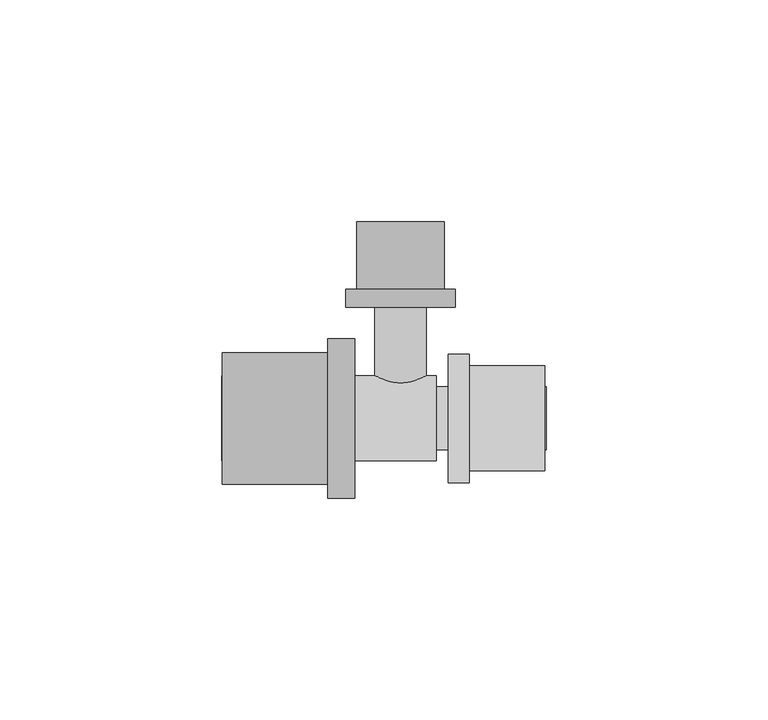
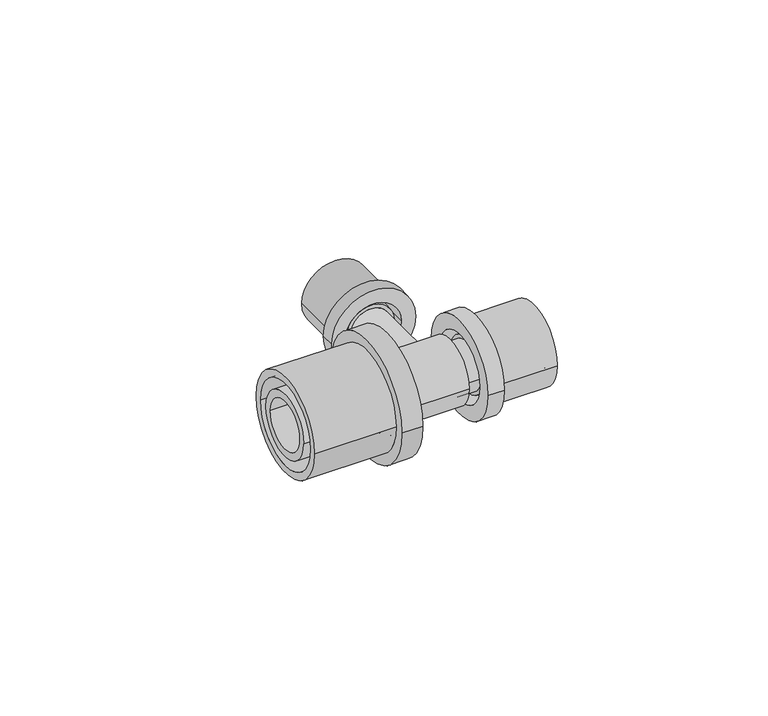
"""IFC4 building model written with IfcOpenShell, lengths in millimetres: pipe fitting geometry, FASTLOC_T-piece_EX+ : FSL T-Piece EX+ AT."""

import ifcopenshell
import ifcopenshell.guid

model = None  # the IFC model being written
_history = None  # IfcOwnerHistory: only IFC2X3 demands one
_inside = {}  # id of a spatial element -> (the spatial element, [elements in it])
_under = {}  # id of a project, library or spatial element -> (it, [spatial elements below it])
_declared = {}  # id of a project -> (the project, [libraries it declares])
_typed = {}  # id of a type object -> (the type object, [elements of that type])
_made_of = {}  # id of a material, layer set ... -> (it, [elements and type objects made of it])


def new_model(schema):
    """Start an empty IFC model of exactly this schema.

    Asked for "IFC4X3", IfcOpenShell would pick the latest addendum, in which some entities
    have other attributes; the version numbers below select the first issue.
    IFC2X3 requires an IfcOwnerHistory on every rooted entity: one is made here for all.
    """
    global model, _history
    if schema == "IFC4X3":
        model = ifcopenshell.file(schema_version=(4, 3, 0, 0))
    else:
        model = ifcopenshell.file(schema=schema)
    _inside.clear()
    _under.clear()
    _declared.clear()
    _typed.clear()
    _made_of.clear()
    _history = None
    if model.schema == "IFC2X3":
        org = make("IfcOrganization", Name="unknown")
        user = make(
            "IfcPersonAndOrganization",
            ThePerson=make("IfcPerson", FamilyName="unknown"),
            TheOrganization=org,
        )
        app = make(
            "IfcApplication",
            ApplicationDeveloper=org,
            Version="unknown",
            ApplicationFullName="unknown",
            ApplicationIdentifier="unknown",
        )
        _history = make(
            "IfcOwnerHistory",
            OwningUser=user,
            OwningApplication=app,
            ChangeAction="ADDED",
            CreationDate=0,
        )
    return model


def make(cls, **values):
    """One entity of the class cls with the attributes given. An attribute that is None is left unset."""
    return model.create_entity(
        cls, **{name: value for name, value in values.items() if value is not None}
    )


def rooted(cls, **values):
    """An entity with a GlobalId (a new one), such as an element, a storey or a relation."""
    return make(cls, GlobalId=ifcopenshell.guid.new(), OwnerHistory=_history, **values)


def si_unit(unit_type, name, prefix=None):
    """IfcSIUnit, for example si_unit("LENGTHUNIT", "METRE", prefix="MILLI")."""
    return make("IfcSIUnit", UnitType=unit_type, Prefix=prefix, Name=name)


def assignment(units):
    """IfcUnitAssignment: the units of a project."""
    return None if units is None else make("IfcUnitAssignment", Units=units)


def point(xyz):
    """IfcCartesianPoint."""
    return None if xyz is None else make("IfcCartesianPoint", Coordinates=xyz)


def direction(xyz):
    """IfcDirection."""
    return None if xyz is None else make("IfcDirection", DirectionRatios=xyz)


def frame(location, z_axis=None, x_axis=None):
    """IfcAxis2Placement3D, a coordinate frame: its origin and axes. An axis left out is left unset."""
    return make(
        "IfcAxis2Placement3D",
        Location=point(location),
        Axis=direction(z_axis),
        RefDirection=direction(x_axis),
    )


def origin():
    """The frame at (0, 0, 0) with its axes left unset."""
    return frame((0.0, 0.0, 0.0))


def place(relative_to, where):
    """IfcLocalPlacement: puts the frame where relative to a parent placement (None: the world)."""
    return make(
        "IfcLocalPlacement", PlacementRelTo=relative_to, RelativePlacement=where
    )


def context(
    kind, dimensions, precision=None, world=None, true_north=None, identifier=None
):
    """IfcGeometricRepresentationContext, for example the 3D "Model" context."""
    return make(
        "IfcGeometricRepresentationContext",
        ContextIdentifier=identifier,
        ContextType=kind,
        CoordinateSpaceDimension=dimensions,
        Precision=precision,
        WorldCoordinateSystem=world,
        TrueNorth=true_north,
    )


def project(units=None, contexts=None):
    """IfcProject with its units and contexts."""
    return rooted(
        "IfcProject",
        Name="project",
        RepresentationContexts=contexts,
        UnitsInContext=assignment(units),
    )


def spatial(cls, under=None, at=None, **own):
    """A site, building, storey or space (cls), placed at a placement, below another one or the project."""
    s = rooted(cls, ObjectPlacement=at, **own)
    if under is not None:
        _under.setdefault(under.id(), (under, []))[1].append(s)
    return s


def polyline(points):
    """IfcPolyline through the points."""
    return make("IfcPolyline", Points=[point(p) for p in points])


def circle_curve(where, radius):
    """IfcCircle in the frame where."""
    return make("IfcCircle", Position=where, Radius=radius)


def shape(context_of_items, identifier, shape_type, items):
    """IfcShapeRepresentation: the items that make up one representation, for example the "Body"."""
    return make(
        "IfcShapeRepresentation",
        ContextOfItems=context_of_items,
        RepresentationIdentifier=identifier,
        RepresentationType=shape_type,
        Items=items,
    )


def source(mapping_origin, context_of_items, identifier, shape_type, items):
    """IfcRepresentationMap: a shape defined once, which mapped items show again and again."""
    return make(
        "IfcRepresentationMap",
        MappingOrigin=mapping_origin,
        MappedRepresentation=shape(context_of_items, identifier, shape_type, items),
    )


def transform(
    local_origin,
    x_axis=None,
    y_axis=None,
    z_axis=None,
    scale=None,
    scale2=None,
    scale3=None,
    uniform=True,
):
    """IfcCartesianTransformationOperator3D, or its non-uniform kind. x_axis, y_axis, z_axis: its Axis1, 2, 3."""
    if uniform:
        return make(
            "IfcCartesianTransformationOperator3D",
            Axis1=direction(x_axis),
            Axis2=direction(y_axis),
            LocalOrigin=point(local_origin),
            Scale=scale,
            Axis3=direction(z_axis),
        )
    return make(
        "IfcCartesianTransformationOperator3DnonUniform",
        Axis1=direction(x_axis),
        Axis2=direction(y_axis),
        LocalOrigin=point(local_origin),
        Scale=scale,
        Axis3=direction(z_axis),
        Scale2=scale2,
        Scale3=scale3,
    )


def mapped(mapping_source, mapping_target):
    """IfcMappedItem: shows the shape of a source again, moved by a transform."""
    return make(
        "IfcMappedItem", MappingSource=mapping_source, MappingTarget=mapping_target
    )


def made_of(thing, what):
    """Note that an element or type object is made of a material, layer set ...; save() writes the relation."""
    if what is not None:
        _made_of.setdefault(what.id(), (what, []))[1].append(thing)
    return thing


def element(
    cls,
    number,
    at=None,
    inside=None,
    cuts=None,
    type_object=None,
    material=None,
    context=None,
    identifier="Body",
    shape_type=None,
    held_by="IfcProductDefinitionShape",
    body=None,
    shapes=None,
    **own,
):
    """One element of the class cls, such as IfcWall. Its Tag is "e" and its number.

    at: its placement. inside: the storey or other place that contains it. cuts: it is an
    opening in that element (IfcRelVoidsElement). A single representation is given by context,
    identifier, shape_type and body (its items); several are given by shapes. held_by: the class
    of the entity that holds the representations. save() writes the other relations.
    """
    e = rooted(cls, Tag="e%d" % number, ObjectPlacement=at, **own)
    if body is not None:
        shapes = [shape(context, identifier, shape_type, body)]
    if shapes is not None:
        e.Representation = make(held_by, Representations=shapes)
    if inside is not None:
        _inside.setdefault(inside.id(), (inside, []))[1].append(e)
    if cuts is not None:
        rooted(
            "IfcRelVoidsElement", RelatingBuildingElement=cuts, RelatedOpeningElement=e
        )
    if type_object is not None:
        _typed.setdefault(type_object.id(), (type_object, []))[1].append(e)
    return made_of(e, material)


def aggregate(whole, parts):
    """IfcRelAggregates: a whole, such as a stair, and the parts it consists of."""
    return rooted("IfcRelAggregates", RelatingObject=whole, RelatedObjects=parts)


def save(model, path):
    """Write the relations noted so far, then the file.

    IfcRelAggregates (storeys below a building ...), IfcRelContainedInSpatialStructure (elements
    in a storey), IfcRelDefinesByType, IfcRelAssociatesMaterial and IfcRelDeclares: one each for
    every whole, place, type object, material and project.
    """
    for whole, parts in _under.values():
        aggregate(whole, parts)
    for where, things in _inside.values():
        rooted(
            "IfcRelContainedInSpatialStructure",
            RelatedElements=things,
            RelatingStructure=where,
        )
    for kind, things in _typed.values():
        rooted("IfcRelDefinesByType", RelatedObjects=things, RelatingType=kind)
    for what, things in _made_of.values():
        rooted("IfcRelAssociatesMaterial", RelatedObjects=things, RelatingMaterial=what)
    for by, libraries in _declared.values():
        rooted("IfcRelDeclares", RelatingContext=by, RelatedDefinitions=libraries)
    model.write(path)


def plane_surface(at):
    """IfcPlane: the flat surface through the origin of the frame at, square to its z axis."""
    return make("IfcPlane", Position=at)


def cylinder_surface(at, radius):
    """IfcCylindricalSurface: all points at the distance radius from the z axis of the frame at."""
    return make("IfcCylindricalSurface", Position=at, Radius=radius)


def revolved_surface(curve, axis_point, axis_direction):
    """IfcSurfaceOfRevolution: the curve turned about the line through axis_point along axis_direction."""
    return make(
        "IfcSurfaceOfRevolution",
        SweptCurve=make("IfcArbitraryOpenProfileDef", ProfileType="CURVE", Curve=curve),
        AxisPosition=make("IfcAxis1Placement", Location=point(axis_point), Axis=direction(axis_direction)),
    )


def advanced_brep(points, edges, surfaces, faces):
    """IfcAdvancedBrep: a solid bounded by faces that lie on surfaces and meet in shared edges.

    An edge is (start, end): straight between two places in points (the first is 0);
    or (start, end, curve); or (start, end, curve, False) where it runs against its curve.
    A face is (place in surfaces, loops), or (place, loops, False) where it looks against
    its surface's normal. A loop lists edges by number (the first is 1), with a minus sign
    where the edge is run from its end to its start. The first loop is the outer one.
    """
    corners = [point(p) for p in points]
    vertices = [make("IfcVertexPoint", VertexGeometry=c) for c in corners]
    made = []
    for start, end, *more in edges:
        made.append(
            make(
                "IfcEdgeCurve",
                EdgeStart=vertices[start],
                EdgeEnd=vertices[end],
                EdgeGeometry=more[0] if more else make("IfcPolyline", Points=[corners[start], corners[end]]),
                SameSense=more[1] if len(more) > 1 else True,
            )
        )
    hull = []
    for where, loops, *sense in faces:
        bounds = []
        for j, loop in enumerate(loops):
            ring = [make("IfcOrientedEdge", EdgeElement=made[abs(k) - 1], Orientation=k > 0) for k in loop]
            bounds.append(
                make(
                    "IfcFaceOuterBound" if j == 0 else "IfcFaceBound",
                    Bound=make("IfcEdgeLoop", EdgeList=ring),
                    Orientation=True,
                )
            )
        hull.append(make("IfcAdvancedFace", Bounds=bounds, FaceSurface=surfaces[where], SameSense=sense[0] if sense else True))
    return make("IfcAdvancedBrep", Outer=make("IfcClosedShell", CfsFaces=hull))


def pipe_fitting_271ef6d1(model_context):
    return source(origin(), model_context, "Body", "AdvancedBrep", [
        advanced_brep(
        [(15.5, 14.5, 0.0), (15.5, -14.5, 0.0), (10.8, -14.5, 0.0), (10.8, 14.5, 0.0), (32.5, 11.85, 0.0), (32.5, -11.85, 0.0), (15.5, -11.85, 0.0), (15.5, 11.85, 0.0), (10.8, 10.15, 0.0), (10.8, -10.15, 0.0), (32.5, -10.15, 0.0), (32.5, 10.15, 0.0)],
        [
            (0, 1, circle_curve(frame((15.5, 0.0, 0.0), z_axis=(-1.0, 0.0, 0.0), x_axis=(0.0, -1.0, 0.0)), 14.5)),
            (1, 2),
            (2, 3, circle_curve(frame((10.8, 0.0, 0.0), z_axis=(1.0, 0.0, 0.0), x_axis=(0.0, -1.0, 0.0)), 14.5)),
            (3, 0),
            (4, 5, circle_curve(frame((32.5, 0.0, 0.0), z_axis=(-1.0, 0.0, 0.0), x_axis=(0.0, -1.0, 0.0)), 11.85)),
            (5, 6),
            (6, 7, circle_curve(frame((15.5, 0.0, 0.0), z_axis=(1.0, 0.0, 0.0), x_axis=(0.0, -1.0, 0.0)), 11.85)),
            (7, 4),
            (8, 9, circle_curve(frame((10.8, 0.0, 0.0), z_axis=(-1.0, 0.0, 0.0), x_axis=(0.0, -1.0, 0.0)), 10.15)),
            (9, 10),
            (10, 11, circle_curve(frame((32.5, 0.0, 0.0), z_axis=(1.0, 0.0, 0.0), x_axis=(0.0, -1.0, 0.0)), 10.15)),
            (11, 8),
            (1, 0, circle_curve(frame((15.5, 0.0, 0.0), z_axis=(-1.0, 0.0, 0.0), x_axis=(0.0, 1.0, 0.0)), 14.5)),
            (3, 2, circle_curve(frame((10.8, 0.0, 0.0), z_axis=(1.0, 0.0, 0.0), x_axis=(0.0, 1.0, 0.0)), 14.5)),
            (6, 7, circle_curve(frame((15.5, 0.0, 0.0), z_axis=(-1.0, 0.0, 0.0), x_axis=(0.0, 1.0, 0.0)), 11.85)),
            (5, 4, circle_curve(frame((32.5, 0.0, 0.0), z_axis=(-1.0, 0.0, 0.0), x_axis=(0.0, 1.0, 0.0)), 11.85)),
            (10, 11, circle_curve(frame((32.5, 0.0, 0.0), z_axis=(-1.0, 0.0, 0.0), x_axis=(0.0, 1.0, 0.0)), 10.15)),
            (9, 8, circle_curve(frame((10.8, 0.0, 0.0), z_axis=(-1.0, 0.0, 0.0), x_axis=(0.0, 1.0, 0.0)), 10.15)),
        ],
        [
            cylinder_surface(frame((10.8, 0.0, 0.0), z_axis=(1.0, 0.0, 0.0), x_axis=(0.0, -1.0, 0.0)), 14.5),
            cylinder_surface(frame((10.8, 0.0, 0.0), z_axis=(1.0, 0.0, 0.0), x_axis=(0.0, -1.0, 0.0)), 11.85),
            revolved_surface(polyline([(32.5, -10.15, 0.0), (10.8, -10.15, 0.0)]), (10.8, 0.0, 0.0), (1.0, 0.0, 0.0)),
            cylinder_surface(frame((10.8, 0.0, 0.0), z_axis=(1.0, 0.0, 0.0), x_axis=(0.0, 1.0, 0.0)), 14.5),
            plane_surface(frame((15.5, 0.0, 0.0), z_axis=(1.0, 0.0, 0.0), x_axis=(0.0, 1.0, 0.0))),
            cylinder_surface(frame((10.8, 0.0, 0.0), z_axis=(1.0, 0.0, 0.0), x_axis=(0.0, 1.0, 0.0)), 11.85),
            plane_surface(frame((32.5, 0.0, 0.0), z_axis=(1.0, 0.0, 0.0), x_axis=(0.0, 1.0, 0.0))),
            revolved_surface(polyline([(32.5, 10.15, 0.0), (10.8, 10.15, 0.0)]), (10.8, 0.0, 0.0), (1.0, 0.0, 0.0)),
            plane_surface(frame((10.8, 0.0, 0.0), z_axis=(-1.0, 0.0, 0.0), x_axis=(0.0, 1.0, 0.0))),
        ],
        [
            (0, [[1, 2, 3, 4]]),
            (1, [[5, 6, 7, 8]]),
            (2, [[9, 10, 11, 12]]),
            (3, [[13, -4, 14, -2]]),
            (4, [[-13, -1], [15, -7]]),
            (5, [[16, -8, -15, -6]]),
            (6, [[-16, -5], [17, -11]]),
            (7, [[18, -12, -17, -10]]),
            (8, [[-14, -3], [-18, -9]]),
        ],
    ),
        advanced_brep(
        [(-16.4, -18.0, 0.0), (-16.4, 18.0, 0.0), (-10.4, 18.0, 0.0), (-10.4, -18.0, 0.0), (-40.2, -14.85, 0.0), (-40.2, 14.85, 0.0), (-16.4, 14.85, 0.0), (-16.4, -14.85, 0.0), (-10.4, -12.65, 0.0), (-10.4, 12.65, 0.0), (-40.2, 12.65, 0.0), (-40.2, -12.65, 0.0)],
        [
            (0, 1, circle_curve(frame((-16.4, 0.0, 0.0), z_axis=(1.0, 0.0, 0.0), x_axis=(0.0, 1.0, 0.0)), 18.0)),
            (1, 2),
            (2, 3, circle_curve(frame((-10.4, 0.0, 0.0), z_axis=(-1.0, 0.0, 0.0), x_axis=(0.0, 1.0, 0.0)), 18.0)),
            (3, 0),
            (4, 5, circle_curve(frame((-40.2, 0.0, 0.0), z_axis=(1.0, 0.0, 0.0), x_axis=(0.0, 1.0, 0.0)), 14.85)),
            (5, 6),
            (6, 7, circle_curve(frame((-16.4, 0.0, 0.0), z_axis=(-1.0, 0.0, 0.0), x_axis=(0.0, 1.0, 0.0)), 14.85)),
            (7, 4),
            (8, 9, circle_curve(frame((-10.4, 0.0, 0.0), z_axis=(1.0, 0.0, 0.0), x_axis=(0.0, 1.0, 0.0)), 12.65)),
            (9, 10),
            (10, 11, circle_curve(frame((-40.2, 0.0, 0.0), z_axis=(-1.0, 0.0, 0.0), x_axis=(0.0, 1.0, 0.0)), 12.65)),
            (11, 8),
            (1, 0, circle_curve(frame((-16.4, 0.0, 0.0), z_axis=(1.0, 0.0, 0.0), x_axis=(0.0, -1.0, 0.0)), 18.0)),
            (3, 2, circle_curve(frame((-10.4, 0.0, 0.0), z_axis=(-1.0, 0.0, 0.0), x_axis=(0.0, -1.0, 0.0)), 18.0)),
            (6, 7, circle_curve(frame((-16.4, 0.0, 0.0), z_axis=(1.0, 0.0, 0.0), x_axis=(0.0, -1.0, 0.0)), 14.85)),
            (5, 4, circle_curve(frame((-40.2, 0.0, 0.0), z_axis=(1.0, 0.0, 0.0), x_axis=(0.0, -1.0, 0.0)), 14.85)),
            (10, 11, circle_curve(frame((-40.2, 0.0, 0.0), z_axis=(1.0, 0.0, 0.0), x_axis=(0.0, -1.0, 0.0)), 12.65)),
            (9, 8, circle_curve(frame((-10.4, 0.0, 0.0), z_axis=(1.0, 0.0, 0.0), x_axis=(0.0, -1.0, 0.0)), 12.65)),
        ],
        [
            cylinder_surface(frame((-10.4, 0.0, 0.0), z_axis=(-1.0, 0.0, 0.0), x_axis=(0.0, 1.0, 0.0)), 18.0),
            cylinder_surface(frame((-10.4, 0.0, 0.0), z_axis=(-1.0, 0.0, 0.0), x_axis=(0.0, 1.0, 0.0)), 14.85),
            revolved_surface(polyline([(-40.2, 12.65, 0.0), (-10.4, 12.65, 0.0)]), (-10.4, 0.0, 0.0), (-1.0, 0.0, 0.0)),
            cylinder_surface(frame((-10.4, 0.0, 0.0), z_axis=(-1.0, 0.0, 0.0), x_axis=(0.0, -1.0, 0.0)), 18.0),
            plane_surface(frame((-16.4, 0.0, 0.0), z_axis=(-1.0, 0.0, 0.0), x_axis=(0.0, -1.0, 0.0))),
            cylinder_surface(frame((-10.4, 0.0, 0.0), z_axis=(-1.0, 0.0, 0.0), x_axis=(0.0, -1.0, 0.0)), 14.85),
            plane_surface(frame((-40.2, 0.0, 0.0), z_axis=(-1.0, 0.0, 0.0), x_axis=(0.0, -1.0, 0.0))),
            revolved_surface(polyline([(-40.2, -12.65, 0.0), (-10.4, -12.65, 0.0)]), (-10.4, 0.0, 0.0), (-1.0, 0.0, 0.0)),
            plane_surface(frame((-10.4, 0.0, 0.0), z_axis=(1.0, 0.0, 0.0), x_axis=(0.0, -1.0, 0.0))),
        ],
        [
            (0, [[1, 2, 3, 4]]),
            (1, [[5, 6, 7, 8]]),
            (2, [[9, 10, 11, 12]]),
            (3, [[13, -4, 14, -2]]),
            (4, [[-13, -1], [15, -7]]),
            (5, [[16, -8, -15, -6]]),
            (6, [[-16, -5], [17, -11]]),
            (7, [[18, -12, -17, -10]]),
            (8, [[-14, -3], [-18, -9]]),
        ],
    ),
        advanced_brep(
        [(-12.35, 29.1, 0.0), (12.35, 29.1, 0.0), (12.35, 25.1, 0.0), (-12.35, 25.1, 0.0), (-9.85, 44.4, 0.0), (9.85, 44.4, 0.0), (9.85, 29.1, 0.0), (-9.85, 29.1, 0.0), (-8.15, 25.1, 0.0), (8.15, 25.1, 0.0), (8.15, 44.4, 0.0), (-8.15, 44.4, 0.0)],
        [
            (0, 1, circle_curve(frame((0.0, 29.1, 0.0), z_axis=(0.0, -1.0, 0.0), x_axis=(1.0, 0.0, 0.0)), 12.35)),
            (1, 2),
            (2, 3, circle_curve(frame((0.0, 25.1, 0.0), z_axis=(0.0, 1.0, 0.0), x_axis=(1.0, 0.0, 0.0)), 12.35)),
            (3, 0),
            (4, 5, circle_curve(frame((0.0, 44.4, 0.0), z_axis=(0.0, -1.0, 0.0), x_axis=(1.0, 0.0, 0.0)), 9.85)),
            (5, 6),
            (6, 7, circle_curve(frame((0.0, 29.1, 0.0), z_axis=(0.0, 1.0, 0.0), x_axis=(1.0, 0.0, 0.0)), 9.85)),
            (7, 4),
            (8, 9, circle_curve(frame((0.0, 25.1, 0.0), z_axis=(0.0, -1.0, 0.0), x_axis=(1.0, 0.0, 0.0)), 8.15)),
            (9, 10),
            (10, 11, circle_curve(frame((0.0, 44.4, 0.0), z_axis=(0.0, 1.0, 0.0), x_axis=(1.0, 0.0, 0.0)), 8.15)),
            (11, 8),
            (1, 0, circle_curve(frame((0.0, 29.1, 0.0), z_axis=(0.0, -1.0, 0.0), x_axis=(-1.0, 0.0, 0.0)), 12.35)),
            (3, 2, circle_curve(frame((0.0, 25.1, 0.0), z_axis=(0.0, 1.0, 0.0), x_axis=(-1.0, 0.0, 0.0)), 12.35)),
            (6, 7, circle_curve(frame((0.0, 29.1, 0.0), z_axis=(0.0, -1.0, 0.0), x_axis=(-1.0, 0.0, 0.0)), 9.85)),
            (5, 4, circle_curve(frame((0.0, 44.4, 0.0), z_axis=(0.0, -1.0, 0.0), x_axis=(-1.0, 0.0, 0.0)), 9.85)),
            (10, 11, circle_curve(frame((0.0, 44.4, 0.0), z_axis=(0.0, -1.0, 0.0), x_axis=(-1.0, 0.0, 0.0)), 8.15)),
            (9, 8, circle_curve(frame((0.0, 25.1, 0.0), z_axis=(0.0, -1.0, 0.0), x_axis=(-1.0, 0.0, 0.0)), 8.15)),
        ],
        [
            cylinder_surface(frame((0.0, 25.1, 0.0), z_axis=(0.0, 1.0, 0.0), x_axis=(1.0, 0.0, 0.0)), 12.35),
            cylinder_surface(frame((0.0, 25.1, 0.0), z_axis=(0.0, 1.0, 0.0), x_axis=(1.0, 0.0, 0.0)), 9.85),
            revolved_surface(polyline([(8.15, 44.4, 0.0), (8.15, 25.1, 0.0)]), (0.0, 25.1, 0.0), (0.0, 1.0, 0.0)),
            cylinder_surface(frame((0.0, 25.1, 0.0), z_axis=(0.0, 1.0, 0.0), x_axis=(-1.0, 0.0, 0.0)), 12.35),
            plane_surface(frame((0.0, 29.1, 0.0), z_axis=(0.0, 1.0, 0.0), x_axis=(-1.0, 0.0, 0.0))),
            cylinder_surface(frame((0.0, 25.1, 0.0), z_axis=(0.0, 1.0, 0.0), x_axis=(-1.0, 0.0, 0.0)), 9.85),
            plane_surface(frame((0.0, 44.4, 0.0), z_axis=(0.0, 1.0, 0.0), x_axis=(-1.0, 0.0, 0.0))),
            revolved_surface(polyline([(-8.15, 44.4, 0.0), (-8.15, 25.1, 0.0)]), (0.0, 25.1, 0.0), (0.0, 1.0, 0.0)),
            plane_surface(frame((0.0, 25.1, 0.0), z_axis=(0.0, -1.0, 0.0), x_axis=(-1.0, 0.0, 0.0))),
        ],
        [
            (0, [[1, 2, 3, 4]]),
            (1, [[5, 6, 7, 8]]),
            (2, [[9, 10, 11, 12]]),
            (3, [[13, -4, 14, -2]]),
            (4, [[-13, -1], [15, -7]]),
            (5, [[16, -8, -15, -6]]),
            (6, [[-16, -5], [17, -11]]),
            (7, [[18, -12, -17, -10]]),
            (8, [[-14, -3], [-18, -9]]),
        ],
    ),
        advanced_brep(
        [(12.83, 7.1, 0.0), (12.83, -7.1, 0.0), (8.0, -7.1, 0.0), (8.0, 7.1, 0.0), (15.5, 8.15, 0.0), (15.5, -8.15, 0.0), (12.83, -8.15, 0.0), (12.83, 8.15, 0.0), (32.9, 7.1, 0.0), (32.9, -7.1, 0.0), (15.5, -7.1, 0.0), (15.5, 7.1, 0.0), (6.0, 5.1, 0.0), (6.0, -5.1, 0.0), (32.9, -5.1, 0.0), (32.9, 5.1, 0.0), (-40.4, 7.35, 0.0), (-40.4, -7.35, 0.0), (6.0, -7.35, 0.0), (6.0, 7.35, 0.0), (-16.4, 9.6, 0.0), (-16.4, -9.6, 0.0), (-40.4, -9.6, 0.0), (-40.4, 9.6, 0.0), (-13.6, 11.1, 0.0), (-13.6, -11.1, 0.0), (-16.4, -11.1, 0.0), (-16.4, 11.1, 0.0), (8.0, 9.6, 0.0), (8.0, -9.6, 0.0), (-13.6, -9.6, 0.0), (-13.6, 9.6, 0.0)],
        [
            (0, 1, circle_curve(frame((12.83, 0.0, 0.0), z_axis=(-1.0, 0.0, 0.0), x_axis=(0.0, -1.0, 0.0)), 7.1)),
            (1, 2),
            (2, 3, circle_curve(frame((8.0, 0.0, 0.0), z_axis=(1.0, 0.0, 0.0), x_axis=(0.0, -1.0, 0.0)), 7.1)),
            (3, 0),
            (4, 5, circle_curve(frame((15.5, 0.0, 0.0), z_axis=(-1.0, 0.0, 0.0), x_axis=(0.0, -1.0, 0.0)), 8.15)),
            (5, 6),
            (6, 7, circle_curve(frame((12.83, 0.0, 0.0), z_axis=(1.0, 0.0, 0.0), x_axis=(0.0, -1.0, 0.0)), 8.15)),
            (7, 4),
            (8, 9, circle_curve(frame((32.9, 0.0, 0.0), z_axis=(-1.0, 0.0, 0.0), x_axis=(0.0, -1.0, 0.0)), 7.1)),
            (9, 10),
            (10, 11, circle_curve(frame((15.5, 0.0, 0.0), z_axis=(1.0, 0.0, 0.0), x_axis=(0.0, -1.0, 0.0)), 7.1)),
            (11, 8),
            (12, 13, circle_curve(frame((6.0, 0.0, 0.0), z_axis=(-1.0, 0.0, 0.0), x_axis=(0.0, -1.0, 0.0)), 5.1)),
            (13, 14),
            (14, 15, circle_curve(frame((32.9, 0.0, 0.0), z_axis=(1.0, 0.0, 0.0), x_axis=(0.0, -1.0, 0.0)), 5.1)),
            (15, 12),
            (16, 17, circle_curve(frame((-40.4, 0.0, 0.0), z_axis=(-1.0, 0.0, 0.0), x_axis=(0.0, -1.0, 0.0)), 7.35)),
            (17, 18),
            (18, 19, circle_curve(frame((6.0, 0.0, 0.0), z_axis=(1.0, 0.0, 0.0), x_axis=(0.0, -1.0, 0.0)), 7.35)),
            (19, 16),
            (20, 21, circle_curve(frame((-16.4, 0.0, 0.0), z_axis=(-1.0, 0.0, 0.0), x_axis=(0.0, -1.0, 0.0)), 9.6)),
            (21, 22),
            (22, 23, circle_curve(frame((-40.4, 0.0, 0.0), z_axis=(1.0, 0.0, 0.0), x_axis=(0.0, -1.0, 0.0)), 9.6)),
            (23, 20),
            (24, 25, circle_curve(frame((-13.6, 0.0, 0.0), z_axis=(-1.0, 0.0, 0.0), x_axis=(0.0, -1.0, 0.0)), 11.1)),
            (25, 26),
            (26, 27, circle_curve(frame((-16.4, 0.0, 0.0), z_axis=(1.0, 0.0, 0.0), x_axis=(0.0, -1.0, 0.0)), 11.1)),
            (27, 24),
            (28, 29, circle_curve(frame((8.0, 0.0, 0.0), z_axis=(-1.0, 0.0, 0.0), x_axis=(0.0, -1.0, 0.0)), 9.6)),
            (29, 30),
            (30, 31, circle_curve(frame((-13.6, 0.0, 0.0), z_axis=(1.0, 0.0, 0.0), x_axis=(0.0, -1.0, 0.0)), 9.6)),
            (31, 28),
            (28, 29, circle_curve(frame((8.0, 0.0, 0.0), z_axis=(1.0, 0.0, 0.0), x_axis=(0.0, 1.0, 0.0)), 9.6)),
            (2, 3, circle_curve(frame((8.0, 0.0, 0.0), z_axis=(-1.0, 0.0, 0.0), x_axis=(0.0, 1.0, 0.0)), 7.1)),
            (1, 0, circle_curve(frame((12.83, 0.0, 0.0), z_axis=(-1.0, 0.0, 0.0), x_axis=(0.0, 1.0, 0.0)), 7.1)),
            (6, 7, circle_curve(frame((12.83, 0.0, 0.0), z_axis=(-1.0, 0.0, 0.0), x_axis=(0.0, 1.0, 0.0)), 8.15)),
            (5, 4, circle_curve(frame((15.5, 0.0, 0.0), z_axis=(-1.0, 0.0, 0.0), x_axis=(0.0, 1.0, 0.0)), 8.15)),
            (10, 11, circle_curve(frame((15.5, 0.0, 0.0), z_axis=(-1.0, 0.0, 0.0), x_axis=(0.0, 1.0, 0.0)), 7.1)),
            (9, 8, circle_curve(frame((32.9, 0.0, 0.0), z_axis=(-1.0, 0.0, 0.0), x_axis=(0.0, 1.0, 0.0)), 7.1)),
            (14, 15, circle_curve(frame((32.9, 0.0, 0.0), z_axis=(-1.0, 0.0, 0.0), x_axis=(0.0, 1.0, 0.0)), 5.1)),
            (13, 12, circle_curve(frame((6.0, 0.0, 0.0), z_axis=(-1.0, 0.0, 0.0), x_axis=(0.0, 1.0, 0.0)), 5.1)),
            (18, 19, circle_curve(frame((6.0, 0.0, 0.0), z_axis=(-1.0, 0.0, 0.0), x_axis=(0.0, 1.0, 0.0)), 7.35)),
            (17, 16, circle_curve(frame((-40.4, 0.0, 0.0), z_axis=(-1.0, 0.0, 0.0), x_axis=(0.0, 1.0, 0.0)), 7.35)),
            (22, 23, circle_curve(frame((-40.4, 0.0, 0.0), z_axis=(-1.0, 0.0, 0.0), x_axis=(0.0, 1.0, 0.0)), 9.6)),
            (21, 20, circle_curve(frame((-16.4, 0.0, 0.0), z_axis=(-1.0, 0.0, 0.0), x_axis=(0.0, 1.0, 0.0)), 9.6)),
            (26, 27, circle_curve(frame((-16.4, 0.0, 0.0), z_axis=(-1.0, 0.0, 0.0), x_axis=(0.0, 1.0, 0.0)), 11.1)),
            (25, 24, circle_curve(frame((-13.6, 0.0, 0.0), z_axis=(-1.0, 0.0, 0.0), x_axis=(0.0, 1.0, 0.0)), 11.1)),
            (30, 31, circle_curve(frame((-13.6, 0.0, 0.0), z_axis=(-1.0, 0.0, 0.0), x_axis=(0.0, 1.0, 0.0)), 9.6)),
        ],
        [
            cylinder_surface(frame((0.0, 0.0, 0.0), z_axis=(1.0, 0.0, 0.0), x_axis=(0.0, -1.0, 0.0)), 7.1),
            cylinder_surface(frame((0.0, 0.0, 0.0), z_axis=(1.0, 0.0, 0.0), x_axis=(0.0, -1.0, 0.0)), 8.15),
            revolved_surface(polyline([(32.9, -5.1, 0.0), (6.0, -5.1, 0.0)]), (0.0, 0.0, 0.0), (1.0, 0.0, 0.0)),
            revolved_surface(polyline([(6.0, -7.35, 0.0), (-40.4, -7.35, 0.0)]), (0.0, 0.0, 0.0), (1.0, 0.0, 0.0)),
            cylinder_surface(frame((0.0, 0.0, 0.0), z_axis=(1.0, 0.0, 0.0), x_axis=(0.0, -1.0, 0.0)), 9.6),
            cylinder_surface(frame((0.0, 0.0, 0.0), z_axis=(1.0, 0.0, 0.0), x_axis=(0.0, -1.0, 0.0)), 11.1),
            plane_surface(frame((8.0, 0.0, 0.0), z_axis=(1.0, 0.0, 0.0), x_axis=(0.0, 1.0, 0.0))),
            cylinder_surface(frame((0.0, 0.0, 0.0), z_axis=(1.0, 0.0, 0.0), x_axis=(0.0, 1.0, 0.0)), 7.1),
            plane_surface(frame((12.83, 0.0, 0.0), z_axis=(-1.0, 0.0, 0.0), x_axis=(0.0, 1.0, 0.0))),
            cylinder_surface(frame((0.0, 0.0, 0.0), z_axis=(1.0, 0.0, 0.0), x_axis=(0.0, 1.0, 0.0)), 8.15),
            plane_surface(frame((15.5, 0.0, 0.0), z_axis=(1.0, 0.0, 0.0), x_axis=(0.0, 1.0, 0.0))),
            plane_surface(frame((32.9, 0.0, 0.0), z_axis=(1.0, 0.0, 0.0), x_axis=(0.0, 1.0, 0.0))),
            revolved_surface(polyline([(32.9, 5.1, 0.0), (6.0, 5.1, 0.0)]), (0.0, 0.0, 0.0), (1.0, 0.0, 0.0)),
            plane_surface(frame((6.0, 0.0, 0.0), z_axis=(-1.0, 0.0, 0.0), x_axis=(0.0, 1.0, 0.0))),
            revolved_surface(polyline([(6.0, 7.35, 0.0), (-40.4, 7.35, 0.0)]), (0.0, 0.0, 0.0), (1.0, 0.0, 0.0)),
            plane_surface(frame((-40.4, 0.0, 0.0), z_axis=(-1.0, 0.0, 0.0), x_axis=(0.0, 1.0, 0.0))),
            cylinder_surface(frame((0.0, 0.0, 0.0), z_axis=(1.0, 0.0, 0.0), x_axis=(0.0, 1.0, 0.0)), 9.6),
            plane_surface(frame((-16.4, 0.0, 0.0), z_axis=(-1.0, 0.0, 0.0), x_axis=(0.0, 1.0, 0.0))),
            cylinder_surface(frame((0.0, 0.0, 0.0), z_axis=(1.0, 0.0, 0.0), x_axis=(0.0, 1.0, 0.0)), 11.1),
            plane_surface(frame((-13.6, 0.0, 0.0), z_axis=(1.0, 0.0, 0.0), x_axis=(0.0, 1.0, 0.0))),
        ],
        [
            (0, [[1, 2, 3, 4]]),
            (1, [[5, 6, 7, 8]]),
            (0, [[9, 10, 11, 12]]),
            (2, [[13, 14, 15, 16]]),
            (3, [[17, 18, 19, 20]]),
            (4, [[21, 22, 23, 24]]),
            (5, [[25, 26, 27, 28]]),
            (4, [[29, 30, 31, 32]]),
            (6, [[33, -29], [34, -3]]),
            (7, [[35, -4, -34, -2]]),
            (8, [[36, -7], [-35, -1]]),
            (9, [[37, -8, -36, -6]]),
            (10, [[-37, -5], [38, -11]]),
            (7, [[39, -12, -38, -10]]),
            (11, [[-39, -9], [40, -15]]),
            (12, [[41, -16, -40, -14]]),
            (13, [[42, -19], [-41, -13]]),
            (14, [[43, -20, -42, -18]]),
            (15, [[44, -23], [-43, -17]]),
            (16, [[45, -24, -44, -22]]),
            (17, [[46, -27], [-45, -21]]),
            (18, [[47, -28, -46, -26]]),
            (19, [[-47, -25], [48, -31]]),
            (16, [[-33, -32, -48, -30]]),
        ],
    ),
        advanced_brep(
        [(3.95, 44.1, 0.0), (-3.95, 44.1, 0.0), (-3.95, 0.0, 0.0), (3.95, 0.0, 0.0), (5.8, 0.0, 0.0), (-5.8, 0.0, 0.0), (-5.8, 26.39, 0.0), (5.8, 26.39, 0.0), (6.9, 26.39, 0.0), (-6.9, 26.39, 0.0), (-6.9, 29.1, 0.0), (6.9, 29.1, 0.0), (5.8, 29.1, 0.0), (-5.8, 29.1, 0.0), (-5.8, 44.1, 0.0), (5.8, 44.1, 0.0)],
        [
            (0, 1, circle_curve(frame((0.0, 44.1, 0.0), z_axis=(0.0, 1.0, 0.0), x_axis=(-1.0, 0.0, 0.0)), 3.95)),
            (1, 2),
            (2, 3, circle_curve(frame((0.0, 0.0, 0.0), z_axis=(0.0, -1.0, 0.0), x_axis=(-1.0, 0.0, 0.0)), 3.95)),
            (3, 0),
            (4, 5, circle_curve(frame((0.0, 0.0, 0.0), z_axis=(0.0, 1.0, 0.0), x_axis=(-1.0, 0.0, 0.0)), 5.8)),
            (5, 6),
            (6, 7, circle_curve(frame((0.0, 26.39, 0.0), z_axis=(0.0, -1.0, 0.0), x_axis=(-1.0, 0.0, 0.0)), 5.8)),
            (7, 4),
            (8, 9, circle_curve(frame((0.0, 26.39, 0.0), z_axis=(0.0, 1.0, 0.0), x_axis=(-1.0, 0.0, 0.0)), 6.9)),
            (9, 10),
            (10, 11, circle_curve(frame((0.0, 29.1, 0.0), z_axis=(0.0, -1.0, 0.0), x_axis=(-1.0, 0.0, 0.0)), 6.9)),
            (11, 8),
            (12, 13, circle_curve(frame((0.0, 29.1, 0.0), z_axis=(0.0, 1.0, 0.0), x_axis=(-1.0, 0.0, 0.0)), 5.8)),
            (13, 14),
            (14, 15, circle_curve(frame((0.0, 44.1, 0.0), z_axis=(0.0, -1.0, 0.0), x_axis=(-1.0, 0.0, 0.0)), 5.8)),
            (15, 12),
            (1, 0, circle_curve(frame((0.0, 44.1, 0.0), z_axis=(0.0, 1.0, 0.0), x_axis=(1.0, 0.0, 0.0)), 3.95)),
            (3, 2, circle_curve(frame((0.0, 0.0, 0.0), z_axis=(0.0, -1.0, 0.0), x_axis=(1.0, 0.0, 0.0)), 3.95)),
            (4, 5, circle_curve(frame((0.0, 0.0, 0.0), z_axis=(0.0, -1.0, 0.0), x_axis=(1.0, 0.0, 0.0)), 5.8)),
            (7, 6, circle_curve(frame((0.0, 26.39, 0.0), z_axis=(0.0, -1.0, 0.0), x_axis=(1.0, 0.0, 0.0)), 5.8)),
            (8, 9, circle_curve(frame((0.0, 26.39, 0.0), z_axis=(0.0, -1.0, 0.0), x_axis=(1.0, 0.0, 0.0)), 6.9)),
            (11, 10, circle_curve(frame((0.0, 29.1, 0.0), z_axis=(0.0, -1.0, 0.0), x_axis=(1.0, 0.0, 0.0)), 6.9)),
            (12, 13, circle_curve(frame((0.0, 29.1, 0.0), z_axis=(0.0, -1.0, 0.0), x_axis=(1.0, 0.0, 0.0)), 5.8)),
            (15, 14, circle_curve(frame((0.0, 44.1, 0.0), z_axis=(0.0, -1.0, 0.0), x_axis=(1.0, 0.0, 0.0)), 5.8)),
        ],
        [
            revolved_surface(polyline([(-3.95, 0.0, 0.0), (-3.95, 44.1, 0.0)]), (0.0, 0.0, 0.0), (0.0, -1.0, 0.0)),
            cylinder_surface(frame((0.0, 0.0, 0.0), z_axis=(0.0, -1.0, 0.0), x_axis=(-1.0, 0.0, 0.0)), 5.8),
            cylinder_surface(frame((0.0, 0.0, 0.0), z_axis=(0.0, -1.0, 0.0), x_axis=(-1.0, 0.0, 0.0)), 6.9),
            revolved_surface(polyline([(3.95, 0.0, 0.0), (3.95, 44.1, 0.0)]), (0.0, 0.0, 0.0), (0.0, -1.0, 0.0)),
            plane_surface(frame((0.0, 0.0, 0.0), z_axis=(0.0, -1.0, 0.0), x_axis=(1.0, 0.0, 0.0))),
            cylinder_surface(frame((0.0, 0.0, 0.0), z_axis=(0.0, -1.0, 0.0), x_axis=(1.0, 0.0, 0.0)), 5.8),
            plane_surface(frame((0.0, 26.39, 0.0), z_axis=(0.0, -1.0, 0.0), x_axis=(1.0, 0.0, 0.0))),
            cylinder_surface(frame((0.0, 0.0, 0.0), z_axis=(0.0, -1.0, 0.0), x_axis=(1.0, 0.0, 0.0)), 6.9),
            plane_surface(frame((0.0, 29.1, 0.0), z_axis=(0.0, 1.0, 0.0), x_axis=(1.0, 0.0, 0.0))),
            plane_surface(frame((0.0, 44.1, 0.0), z_axis=(0.0, 1.0, 0.0), x_axis=(1.0, 0.0, 0.0))),
        ],
        [
            (0, [[1, 2, 3, 4]]),
            (1, [[5, 6, 7, 8]]),
            (2, [[9, 10, 11, 12]]),
            (1, [[13, 14, 15, 16]]),
            (3, [[17, -4, 18, -2]]),
            (4, [[19, -5], [-18, -3]]),
            (5, [[-19, -8, 20, -6]]),
            (6, [[21, -9], [-20, -7]]),
            (7, [[-21, -12, 22, -10]]),
            (8, [[-22, -11], [23, -13]]),
            (5, [[-23, -16, 24, -14]]),
            (9, [[-24, -15], [-17, -1]]),
        ],
    ),
    ])


if __name__ == "__main__":
    model = new_model("IFC4")
    model_context = context("Model", 3, world=origin())
    ifc_project = project(units=[si_unit("LENGTHUNIT", "METRE", prefix="MILLI")], contexts=[model_context])
    site = spatial("IfcSite", under=ifc_project)
    building = spatial("IfcBuilding", under=site)
    placement = place(None, origin())
    pipe_fitting_shape = pipe_fitting_271ef6d1(model_context)
    element("IfcPipeFitting", 1, ObjectType="FASTLOC_T-piece_EX+ : FSL T-Piece EX+ AT", at=placement, inside=building, context=model_context, shape_type="MappedRepresentation", body=[
        mapped(pipe_fitting_shape, transform((0.0, 0.0, 0.0), x_axis=(1.0, 0.0, 0.0), y_axis=(0.0, 1.0, 0.0), z_axis=(0.0, 0.0, 1.0))),
    ])
    save(model, "model.ifc")
